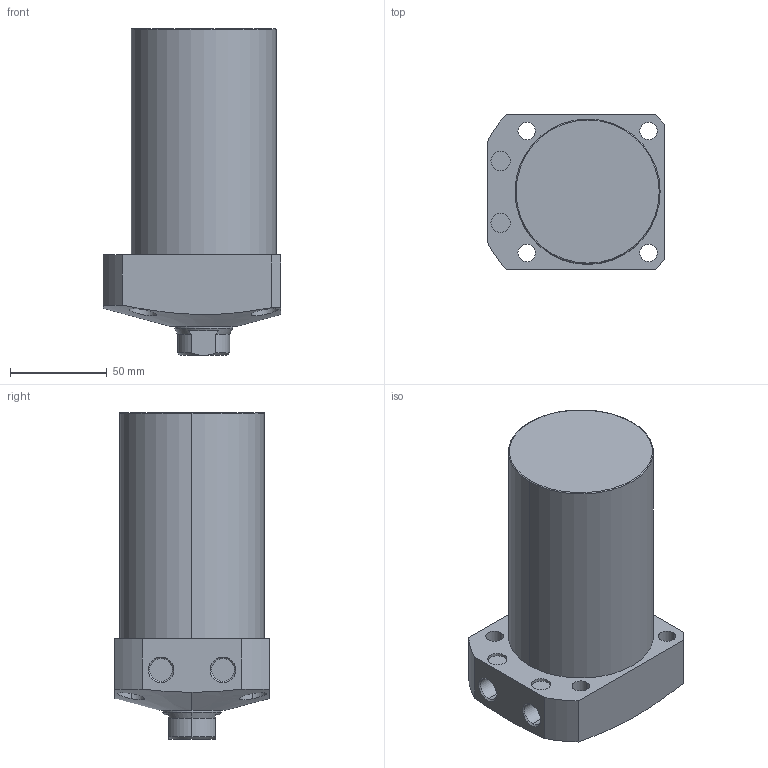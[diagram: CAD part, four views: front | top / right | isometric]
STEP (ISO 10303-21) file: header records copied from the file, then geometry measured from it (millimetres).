
FILE_DESCRIPTION (( 'STEP AP203' ), '1' );
FILE_NAME ('CLL-075CA-080.STEP', '2019-12-23T08:31:49', ( '' ), ( '' ), 'SwSTEP 2.0', 'SolidWorks 2015', '' );
FILE_SCHEMA (( 'CONFIG_CONTROL_DESIGN' ));
Length unit declared in the file: millimetre
Products named in the file (1): CLL-075CA-080
Bounding box: 92 x 80 x 169 mm (x, y, z)
Volume: 735948.1 mm3; surface area: 59901.8 mm2
Topology: 1 solids, 1 shells, 74 faces, 171 edges, 108 vertices
Faces by surface type: cylinder 35, plane 22, cone 15, torus 2
Entity records: 2610 total; most frequent: CARTESIAN_POINT 815, DIRECTION 376, ORIENTED_EDGE 338, EDGE_CURVE 169, AXIS2_PLACEMENT_3D 156, VERTEX_POINT 108, EDGE_LOOP 93, CIRCLE 81
